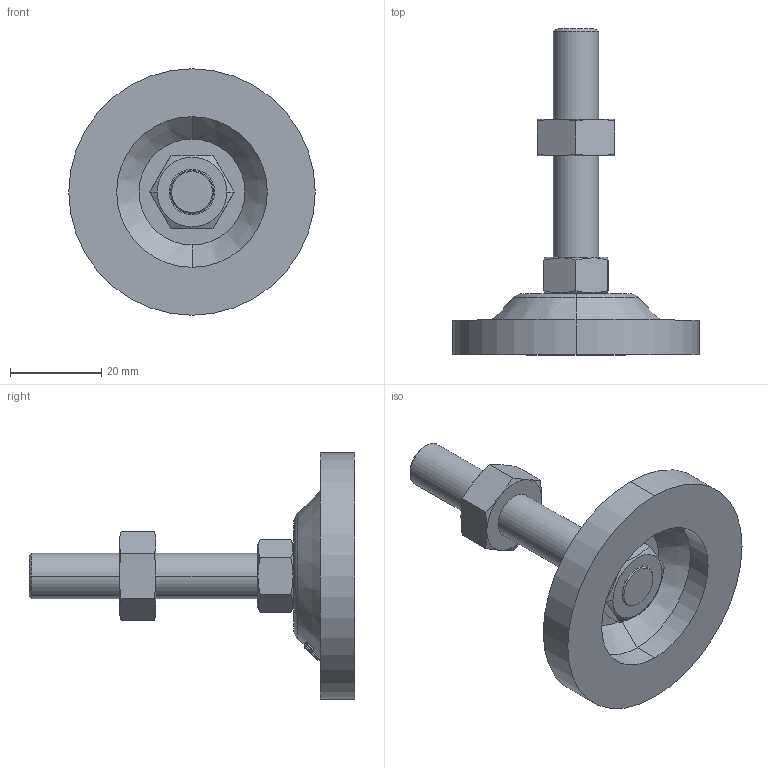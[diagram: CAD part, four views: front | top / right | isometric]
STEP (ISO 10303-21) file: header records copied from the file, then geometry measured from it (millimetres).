
FILE_DESCRIPTION (( 'STEP AP203' ), '1' );
FILE_NAME ('P-54-1050-BR.STEP', '2020-09-10T08:40:29', ( '' ), ( '' ), 'SwSTEP 2.0', 'SolidWorks 2016', '' );
FILE_SCHEMA (( 'CONFIG_CONTROL_DESIGN' ));
Length unit declared in the file: millimetre
Products named in the file (5): P-54-1050-BR; 脚垫调节六角螺母M10; P-54-1菁釱-3P; 傲郈蹟裝M10炵蹈_M10X50; hex thin nuts-grades ab-chamfered gb_GB_FASTENER_NUT_STNAB M10-N
Assembly tree (4 placements, depth 2):
  P-54-1050-BR
    P-54-1菁釱-3P
    傲郈蹟裝M10炵蹈_M10X50
    hex thin nuts-grades ab-chamfered gb_GB_FASTENER_NUT_STNAB M10-N
    脚垫调节六角螺母M10
Bounding box: 54 x 71.4 x 54 mm (x, y, z)
Volume: 21877.4 mm3; surface area: 16098.9 mm2
Topology: 5 solids, 5 shells, 145 faces, 336 edges, 212 vertices
Faces by surface type: cone 47, bspline 38, plane 34, cylinder 20, torus 6
Entity records: 7894 total; most frequent: CARTESIAN_POINT 4437, ORIENTED_EDGE 672, DIRECTION 488, EDGE_CURVE 336, VERTEX_POINT 212, AXIS2_PLACEMENT_3D 210, B_SPLINE_CURVE_WITH_KNOTS 172, EDGE_LOOP 164
